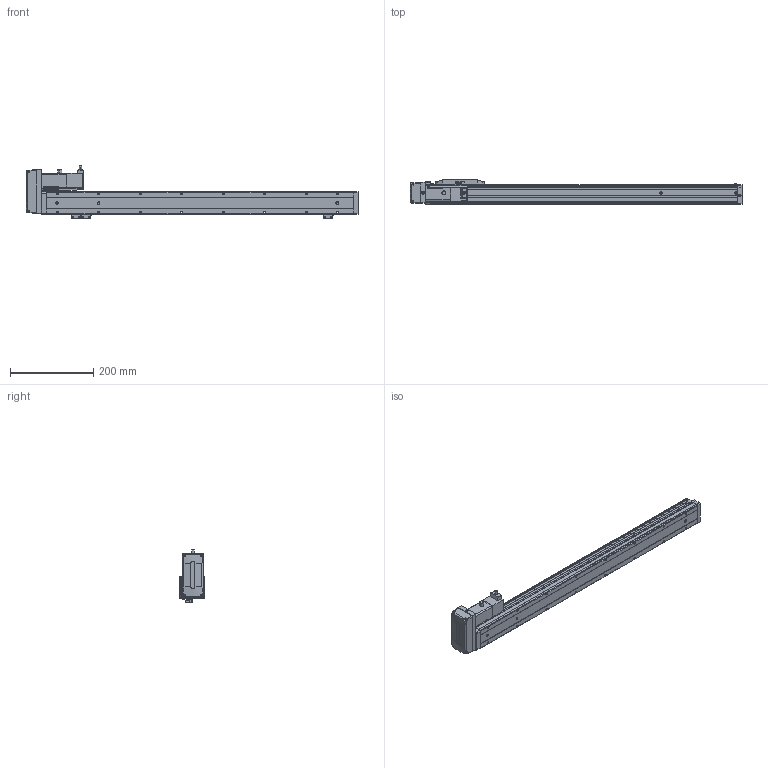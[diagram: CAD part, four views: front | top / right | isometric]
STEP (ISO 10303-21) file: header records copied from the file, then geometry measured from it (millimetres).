
FILE_DESCRIPTION (( 'STEP AP203' ), '1' );
FILE_NAME ('CTH5-L10-S600-BL-C10(¼ò).STEP', '2023-02-04T02:14:42', ( '' ), ( '' ), 'SwSTEP 2.0', 'SolidWorks 2018', '' );
FILE_SCHEMA (( 'CONFIG_CONTROL_DESIGN' ));
Length unit declared in the file: millimetre
Products named in the file (21): CTH100W假蚾啣; CTH5ヶ耜啣(潠); 100W萇儂; CTH5賑怢-2; CTH5-L10-S600-BL-C10(潠); CTH5耜蚾欶; 嫖萇羲壽郪磁1; PM-Y45; CTH5耜蚾蟀諉啣(潠); CTH5耜晚蹟隊; 葩璃 蚾饜极13^CTH8-L10-S50-BM-C40(潠)1; hex nuts, style 1-grades ab gb_GB_FASTENER_NUT_SNAB1 M3-N; CTH5耜晚蹟隊-1; CTH5綴耜啣; 内六角圆柱头螺钉M3-2; T10-p1; CTH5-BL-T10_body5; CTH嫖萇羲壽假蚾啣; CTH5菁釱-L740; CTH5覜茼え; M3｡｣
Assembly tree (35 placements, depth 3):
  CTH5-L10-S600-BL-C10(潠)
    CTH5綴耜啣
    CTH5賑怢-2
    CTH5ヶ耜啣(潠)
    CTH5菁釱-L740
    CTH5耜晚蹟隊  x2
    CTH5覜茼え
    CTH5耜晚蹟隊-1  x3
    CTH5耜蚾蟀諉啣(潠)
    CTH5耜蚾欶
      CTH5-BL-T10_body5
    100W萇儂
      T10-p1
    CTH100W假蚾啣
    葩璃 蚾饜极13^CTH8-L10-S50-BM-C40(潠)1  x2
      CTH嫖萇羲壽假蚾啣
      PM-Y45
      内六角圆柱头螺钉M3-2
      M3｡｣
      hex nuts, style 1-grades ab gb_GB_FASTENER_NUT_SNAB1 M3-N
    嫖萇羲壽郪磁1
      CTH嫖萇羲壽假蚾啣
      PM-Y45
      M3｡｣  x2
      内六角圆柱头螺钉M3-2  x2
      hex nuts, style 1-grades ab gb_GB_FASTENER_NUT_SNAB1 M3-N  x2
Bounding box: 800 x 60 x 126.31 mm (x, y, z)
Volume: 1971923.6 mm3; surface area: 279648 mm2
Topology: 38 solids, 38 shells, 1608 faces, 4043 edges, 2608 vertices
Faces by surface type: plane 881, cylinder 472, cone 199, torus 38, bspline 18
Entity records: 37728 total; most frequent: CARTESIAN_POINT 7013, DIRECTION 5985, ORIENTED_EDGE 5758, EDGE_CURVE 2879, AXIS2_PLACEMENT_3D 2063, LINE 1859, VECTOR 1859, VERTEX_POINT 1852
